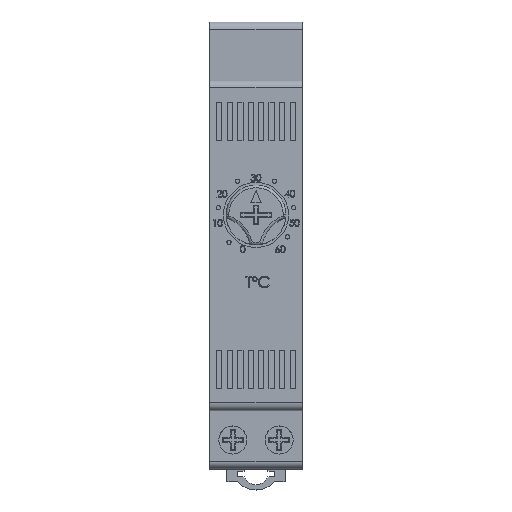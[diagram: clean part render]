
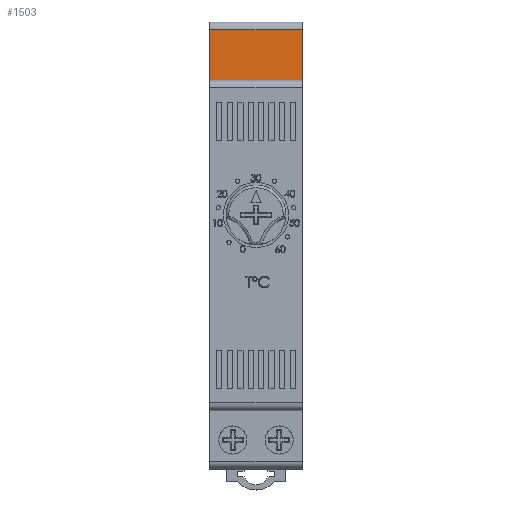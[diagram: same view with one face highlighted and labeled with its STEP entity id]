
A CAD part, top view. The second image highlights one B-rep face of the part: STEP entity #1503.
In plain terms, the highlighted planar face has unit normal (0, 0, 1).
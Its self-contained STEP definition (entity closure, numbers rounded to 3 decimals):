
#1503 = ADVANCED_FACE ( 'NONE', ( #17921 ), #2265, .T. ) ;
#2265 = PLANE ( 'NONE',  #17924 ) ;
#2266 = CARTESIAN_POINT ( 'NONE',  ( 45.393, 42.25, 5.3 ) ) ;
#2267 = DIRECTION ( 'NONE',  ( 0., 0., 1. ) ) ;
#2268 = DIRECTION ( 'NONE',  ( 1., 0., 0. ) ) ;
#5559 = LINE ( 'NONE', #5560, #18919 ) ;
#5560 = CARTESIAN_POINT ( 'NONE',  ( 8.75, 42.25, 5.3 ) ) ;
#5561 = DIRECTION ( 'NONE',  ( 0., -1., 0. ) ) ;
#5616 = LINE ( 'NONE', #5617, #19113 ) ;
#5617 = CARTESIAN_POINT ( 'NONE',  ( -8.75, 42.25, 5.3 ) ) ;
#5618 = DIRECTION ( 'NONE',  ( 0., 1., 0. ) ) ;
#7228 = CARTESIAN_POINT ( 'NONE',  ( 8.75, 31.25, 5.3 ) ) ;
#7229 = CARTESIAN_POINT ( 'NONE',  ( 8.75, 40.75, 5.3 ) ) ;
#7243 = CARTESIAN_POINT ( 'NONE',  ( -8.75, 40.75, 5.3 ) ) ;
#7244 = CARTESIAN_POINT ( 'NONE',  ( -8.75, 31.25, 5.3 ) ) ;
#7664 = LINE ( 'NONE', #7665, #16145 ) ;
#7665 = CARTESIAN_POINT ( 'NONE',  ( 45.393, 31.25, 5.3 ) ) ;
#7666 = DIRECTION ( 'NONE',  ( -1., 0., 0. ) ) ;
#7670 = LINE ( 'NONE', #7671, #16142 ) ;
#7671 = CARTESIAN_POINT ( 'NONE',  ( -8.75, 40.75, 5.3 ) ) ;
#7672 = DIRECTION ( 'NONE',  ( -1., 0., 0. ) ) ;
#16142 = VECTOR ( 'NONE', #7672, 1000. ) ;
#16145 = VECTOR ( 'NONE', #7666, 1000. ) ;
#17921 = FACE_OUTER_BOUND ( 'NONE', #22691, .T. ) ;
#17924 = AXIS2_PLACEMENT_3D ( 'NONE', #2266, #2267, #2268 ) ;
#18919 = VECTOR ( 'NONE', #5561, 1000. ) ;
#19113 = VECTOR ( 'NONE', #5618, 1000. ) ;
#20119 = EDGE_CURVE ( 'NONE', #21488, #21487, #5559, .T. ) ;
#20138 = EDGE_CURVE ( 'NONE', #21503, #21502, #5616, .T. ) ;
#20826 = ORIENTED_EDGE ( 'NONE', *, *, #20138, .F. ) ;
#20831 = ORIENTED_EDGE ( 'NONE', *, *, #21588, .F. ) ;
#20832 = ORIENTED_EDGE ( 'NONE', *, *, #21590, .T. ) ;
#20833 = ORIENTED_EDGE ( 'NONE', *, *, #20119, .F. ) ;
#21487 = VERTEX_POINT ( 'NONE', #7228 ) ;
#21488 = VERTEX_POINT ( 'NONE', #7229 ) ;
#21502 = VERTEX_POINT ( 'NONE', #7243 ) ;
#21503 = VERTEX_POINT ( 'NONE', #7244 ) ;
#21588 = EDGE_CURVE ( 'NONE', #21487, #21503, #7664, .T. ) ;
#21590 = EDGE_CURVE ( 'NONE', #21488, #21502, #7670, .T. ) ;
#22691 = EDGE_LOOP ( 'NONE', ( #20833, #20832, #20826, #20831 ) ) ;
